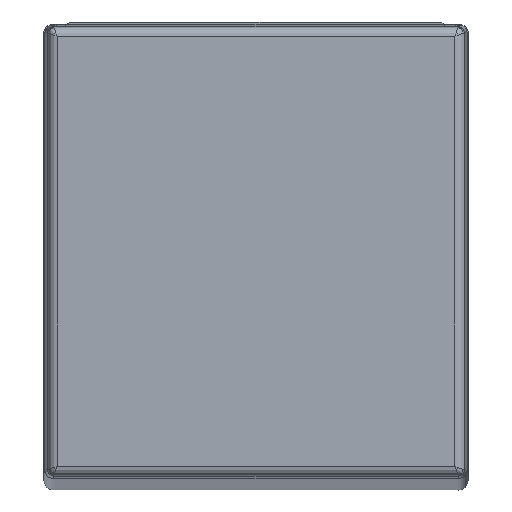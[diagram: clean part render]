
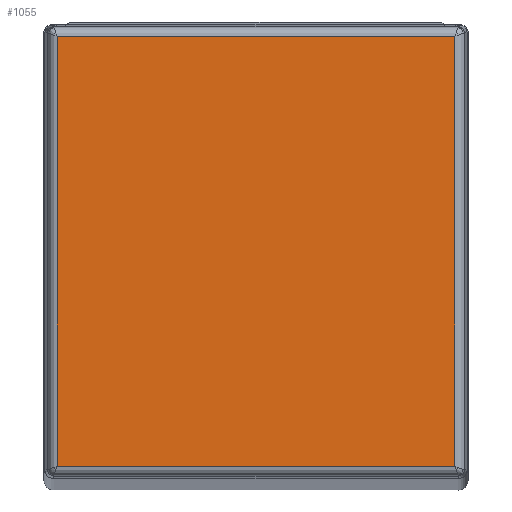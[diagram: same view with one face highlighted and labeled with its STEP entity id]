
A CAD part, top view. The second image highlights one B-rep face of the part: STEP entity #1055.
In plain terms, the highlighted planar face has unit normal (0, 0, 1).
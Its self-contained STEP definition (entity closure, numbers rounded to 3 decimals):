
#40 = VERTEX_POINT ( 'NONE', #4735 ) ;
#285 = CARTESIAN_POINT ( 'NONE',  ( 0., -0.05, 1.8 ) ) ;
#656 = VERTEX_POINT ( 'NONE', #2211 ) ;
#1031 = EDGE_LOOP ( 'NONE', ( #1389, #2890, #5569, #6592 ) ) ;
#1055 = ADVANCED_FACE ( 'NONE', ( #6572 ), #4886, .T. ) ;
#1301 = AXIS2_PLACEMENT_3D ( 'NONE', #285, #4345, #3115 ) ;
#1389 = ORIENTED_EDGE ( 'NONE', *, *, #6261, .T. ) ;
#1690 = CARTESIAN_POINT ( 'NONE',  ( 0., -6.641, 1.8 ) ) ;
#1905 = VECTOR ( 'NONE', #2785, 1000. ) ;
#1945 = LINE ( 'NONE', #6508, #6269 ) ;
#2149 = CARTESIAN_POINT ( 'NONE',  ( 6.141, -0.05, 1.8 ) ) ;
#2157 = VERTEX_POINT ( 'NONE', #6110 ) ;
#2211 = CARTESIAN_POINT ( 'NONE',  ( -6.141, 6.641, 1.8 ) ) ;
#2227 = VECTOR ( 'NONE', #4674, 1000. ) ;
#2271 = CARTESIAN_POINT ( 'NONE',  ( 6.141, -6.641, 1.8 ) ) ;
#2329 = EDGE_CURVE ( 'NONE', #656, #2157, #2460, .T. ) ;
#2460 = LINE ( 'NONE', #5261, #2227 ) ;
#2785 = DIRECTION ( 'NONE',  ( 0., 1., 0. ) ) ;
#2890 = ORIENTED_EDGE ( 'NONE', *, *, #2329, .T. ) ;
#3115 = DIRECTION ( 'NONE',  ( 1., 0., 0. ) ) ;
#3451 = LINE ( 'NONE', #1690, #7181 ) ;
#3978 = DIRECTION ( 'NONE',  ( 1., 0., 0. ) ) ;
#4345 = DIRECTION ( 'NONE',  ( 0., 0., 1. ) ) ;
#4663 = EDGE_CURVE ( 'NONE', #2157, #5466, #3451, .T. ) ;
#4674 = DIRECTION ( 'NONE',  ( 0., -1., 0. ) ) ;
#4735 = CARTESIAN_POINT ( 'NONE',  ( 6.141, 6.641, 1.8 ) ) ;
#4886 = PLANE ( 'NONE',  #1301 ) ;
#5021 = LINE ( 'NONE', #2149, #1905 ) ;
#5261 = CARTESIAN_POINT ( 'NONE',  ( -6.141, -0.05, 1.8 ) ) ;
#5466 = VERTEX_POINT ( 'NONE', #2271 ) ;
#5569 = ORIENTED_EDGE ( 'NONE', *, *, #4663, .T. ) ;
#6110 = CARTESIAN_POINT ( 'NONE',  ( -6.141, -6.641, 1.8 ) ) ;
#6261 = EDGE_CURVE ( 'NONE', #40, #656, #1945, .T. ) ;
#6269 = VECTOR ( 'NONE', #7102, 1000. ) ;
#6508 = CARTESIAN_POINT ( 'NONE',  ( 0., 6.641, 1.8 ) ) ;
#6572 = FACE_OUTER_BOUND ( 'NONE', #1031, .T. ) ;
#6592 = ORIENTED_EDGE ( 'NONE', *, *, #7153, .T. ) ;
#7102 = DIRECTION ( 'NONE',  ( -1., 0., 0. ) ) ;
#7153 = EDGE_CURVE ( 'NONE', #5466, #40, #5021, .T. ) ;
#7181 = VECTOR ( 'NONE', #3978, 1000. ) ;
